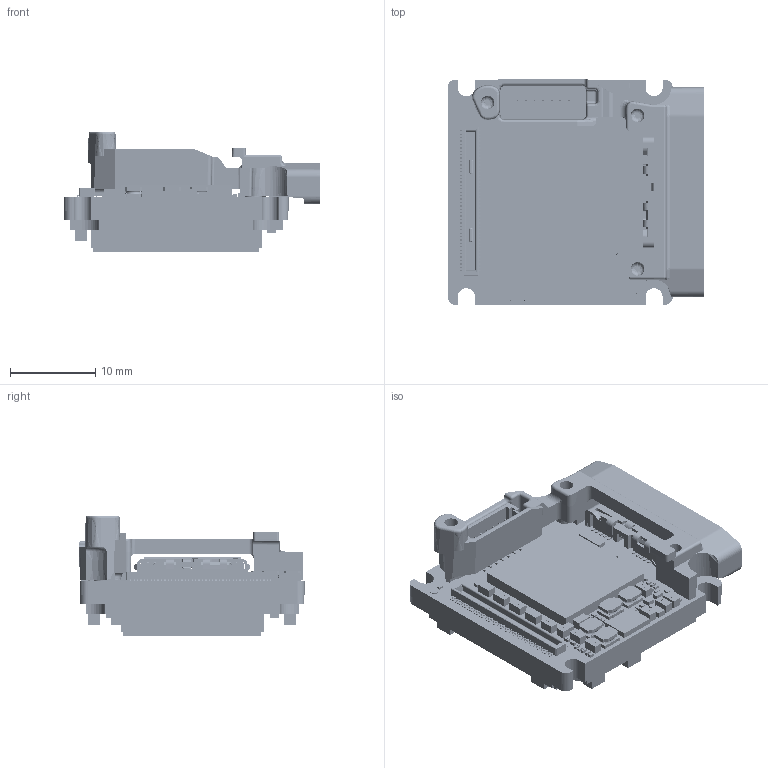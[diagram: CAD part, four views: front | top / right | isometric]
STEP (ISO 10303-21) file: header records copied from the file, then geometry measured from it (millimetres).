
FILE_DESCRIPTION (( 'STEP AP214' ), '1' );
FILE_NAME ('Alvium-USB90-Bare-Board-IMX174-249.STEP', '2022-12-21T15:08:22', ( '' ), ( '' ), 'SwSTEP 2.0', 'SolidWorks 2021', '' );
FILE_SCHEMA (( 'AUTOMOTIVE_DESIGN' ));
Length unit declared in the file: millimetre
Products named in the file (1): Alvium-USB90-Bare-Board-IMX174-249
Bounding box: 30.1 x 26.45 x 14.14 mm (x, y, z)
Volume: 4325.9 mm3; surface area: 6382.1 mm2
Topology: 166 solids, 166 shells, 12020 faces, 30306 edges, 19709 vertices
Faces by surface type: plane 6328, bspline 4393, cylinder 1221, cone 38, torus 32, sphere 8
Entity records: 742598 total; most frequent: CARTESIAN_POINT 349405, ORIENTED_EDGE 60598, DIRECTION 38961, EDGE_CURVE 30299, VERTEX_POINT 19709, LINE 18817, VECTOR 18817, EDGE_LOOP 13162
